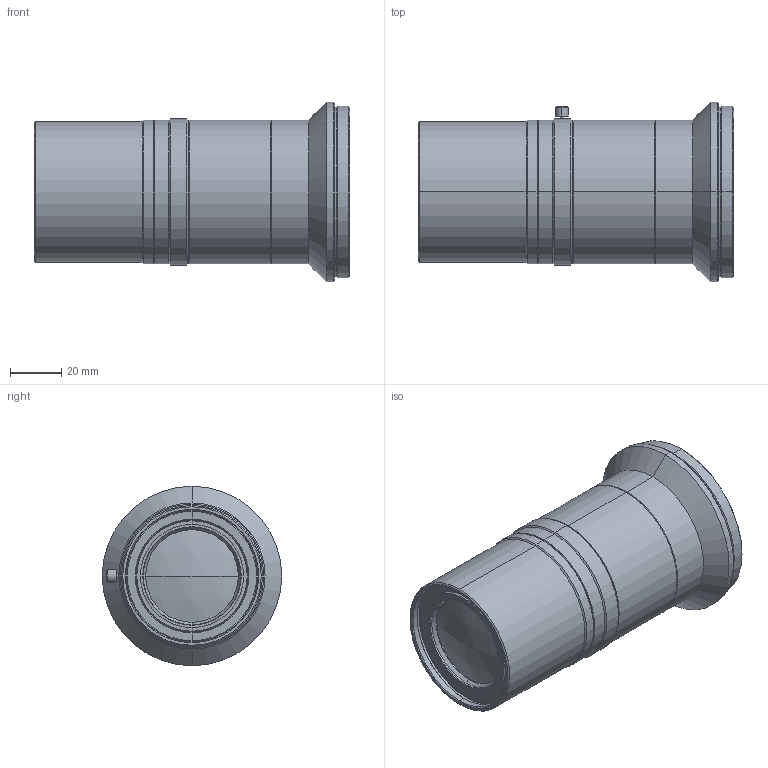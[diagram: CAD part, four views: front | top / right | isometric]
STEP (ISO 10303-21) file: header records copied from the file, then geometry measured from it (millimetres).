
FILE_DESCRIPTION (( 'STEP AP203' ), '1' );
FILE_NAME ('VS-L12040-2.STEP', '2018-09-21T07:13:08', ( '' ), ( '' ), 'SwSTEP 2.0', 'SolidWorks 2018', '' );
FILE_SCHEMA (( 'CONFIG_CONTROL_DESIGN' ));
Length unit declared in the file: millimetre
Products named in the file (1): VS-L12040-2
Bounding box: 123 x 70 x 70 mm (x, y, z)
Volume: 288375 mm3; surface area: 36212.9 mm2
Topology: 1 solids, 1 shells, 126 faces, 254 edges, 144 vertices
Faces by surface type: cone 70, cylinder 38, plane 14, sphere 4
Entity records: 3359 total; most frequent: DIRECTION 650, CARTESIAN_POINT 557, ORIENTED_EDGE 508, AXIS2_PLACEMENT_3D 271, EDGE_CURVE 254, CIRCLE 144, VERTEX_POINT 144, EDGE_LOOP 140
